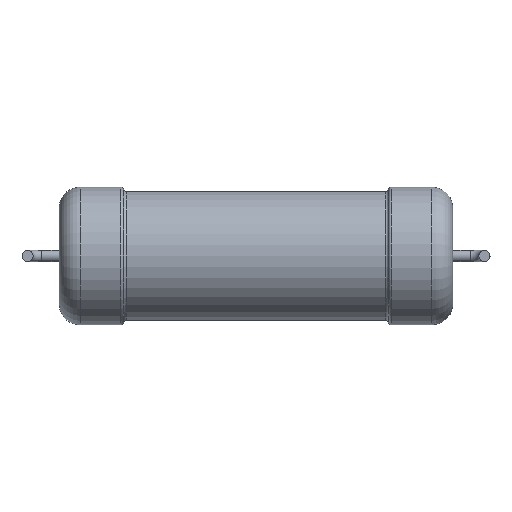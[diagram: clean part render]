
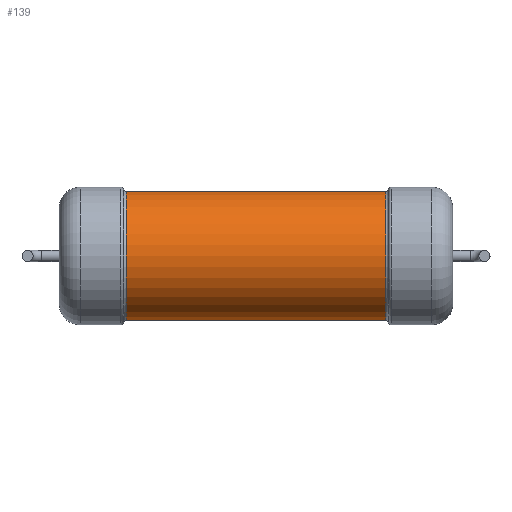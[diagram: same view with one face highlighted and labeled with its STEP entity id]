
A CAD part, front view. The second image highlights one B-rep face of the part: STEP entity #139.
In plain terms, the highlighted cylindrical face has radius 4.588 mm (diameter 9.176 mm), a full revolution.
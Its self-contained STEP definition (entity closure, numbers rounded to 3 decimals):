
#139=ADVANCED_FACE('',(#308,#310),#312,.T.);
#308=FACE_OUTER_BOUND('',#309,.T.);
#309=EDGE_LOOP('',(#413));
#310=FACE_OUTER_BOUND('',#311,.T.);
#311=EDGE_LOOP('',(#414));
#312=CYLINDRICAL_SURFACE('',#313,4.588);
#313=AXIS2_PLACEMENT_3D('',#314,#315,#316);
#314=CARTESIAN_POINT('',(9.232,0.,0.));
#315=DIRECTION('',(-1.,0.,0.));
#316=DIRECTION('',(0.,0.,1.));
#413=ORIENTED_EDGE('',*,*,#440,.T.);
#414=ORIENTED_EDGE('',*,*,#441,.F.);
#440=EDGE_CURVE('',#466,#466,#467,.T.);
#441=EDGE_CURVE('',#468,#468,#469,.T.);
#466=VERTEX_POINT('',#526);
#467=CIRCLE('',#527,4.588);
#468=VERTEX_POINT('',#531);
#469=CIRCLE('',#532,4.588);
#526=CARTESIAN_POINT('',(9.232,0.,4.588));
#527=AXIS2_PLACEMENT_3D('',#528,#529,#530);
#528=CARTESIAN_POINT('',(9.232,0.,0.));
#529=DIRECTION('',(-1.,0.,0.));
#530=DIRECTION('',(0.,0.,1.));
#531=CARTESIAN_POINT('',(-9.232,0.,4.588));
#532=AXIS2_PLACEMENT_3D('',#533,#534,#535);
#533=CARTESIAN_POINT('',(-9.232,0.,0.));
#534=DIRECTION('',(-1.,0.,0.));
#535=DIRECTION('',(0.,0.,1.));
